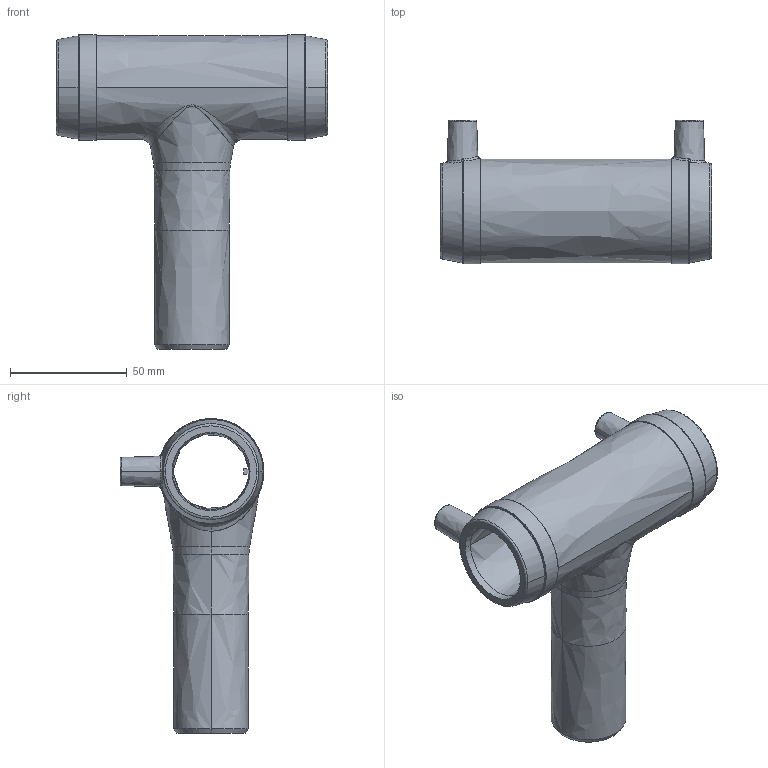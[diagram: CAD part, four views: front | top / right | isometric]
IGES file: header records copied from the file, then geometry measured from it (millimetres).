
Start section:  PTC IGES file: ta_d32-32_01.igs
Global section: file name: ta_d32-32_01.igs; native system: Pro/ENGINEER by Parametric Technology Corporation; preprocessor: 2011490; author: mtunjic; organization: Unknown; date: 20130812.120343; units: millimetre
Bounding box: 116 x 61.5 x 134.6 mm (x, y, z)
Surface area: 46568.3 mm2 (no closed solid volume)
Topology: 0 solids, 0 shells, 207 faces, 1036 edges, 1036 vertices
Faces by surface type: bspline 207
